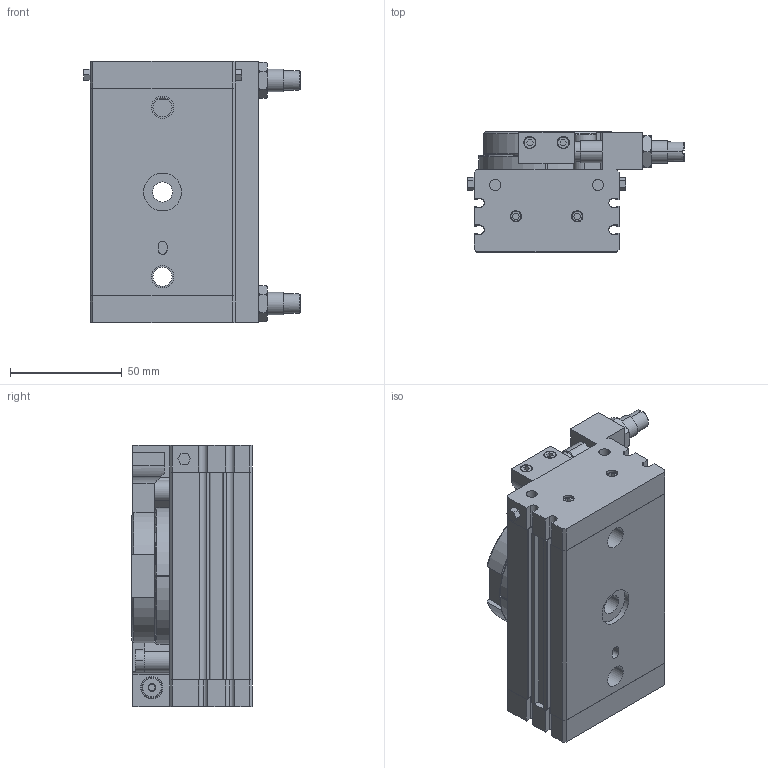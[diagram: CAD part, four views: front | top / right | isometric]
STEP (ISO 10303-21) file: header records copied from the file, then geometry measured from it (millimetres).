
FILE_DESCRIPTION (( 'STEP AP214' ), '1' );
FILE_NAME ('MSQB20H2.step.step', '2023-01-03T11:23:15', ( '' ), ( '' ), 'SwSTEP 2.0', 'SolidWorks 2022', '' );
FILE_SCHEMA (( 'AUTOMOTIVE_DESIGN' ));
Length unit declared in the file: millimetre
Products named in the file (7): MSQB20H2.step_MSQ-Body_20; MSQB20H2.step_Rb2118_RB1007; MSQB20H2.step_Rb-Body_10; MSQB20H2.step_Rb-Nut_10; MSQB20H2.step_Rb-Rod_1007; MSQB20H2.step_MSQ-Top_20-180; MSQB20H2.step
Assembly tree (8 placements, depth 3):
  MSQB20H2.step
    MSQB20H2.step_MSQ-Body_20
    MSQB20H2.step_MSQ-Top_20-180
    MSQB20H2.step_Rb2118_RB1007  x2
      MSQB20H2.step_Rb-Body_10
      MSQB20H2.step_Rb-Rod_1007
    MSQB20H2.step_Rb-Nut_10  x2
Bounding box: 97.2 x 54 x 117 mm (x, y, z)
Volume: 342788.8 mm3; surface area: 79829.3 mm2
Topology: 8 solids, 12 shells, 555 faces, 1387 edges, 910 vertices
Faces by surface type: plane 321, cylinder 172, torus 33, cone 29
Entity records: 16834 total; most frequent: CARTESIAN_POINT 2995, DIRECTION 2566, ORIENTED_EDGE 2494, EDGE_CURVE 1247, AXIS2_PLACEMENT_3D 865, LINE 836, VECTOR 836, VERTEX_POINT 820
